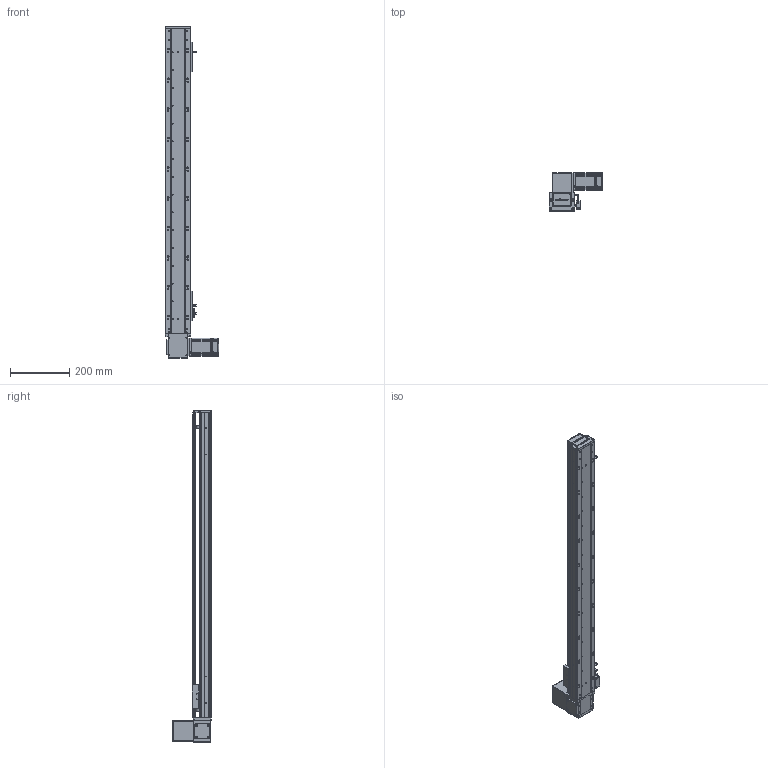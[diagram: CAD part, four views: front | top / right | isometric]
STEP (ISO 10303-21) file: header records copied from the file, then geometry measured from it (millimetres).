
FILE_DESCRIPTION (( 'STEP AP203' ), '1' );
FILE_NAME ('RY80-T-300-UR.SLDASM_850.step', '2021-03-01T02:26:28', ( '盈信电脑' ), ( '东莞市道滘镇水果街19号' ), 'SwSTEP 2.0', 'SolidWorks 2012', '' );
FILE_SCHEMA (( 'CONFIG_CONTROL_DESIGN' ));
Length unit declared in the file: millimetre
Products named in the file (20): RY80-T-M4蹟翐2; RY80-T萇儂假蚾啣; RY80-T-300-UR.SLDASM_850; RY80-T肮祭謫奻殏俋欶; RY80-T-上下折同步轮盖板; RY80-T翋肮祭謫裔啣; 1; RY80-T肮祭湍揤輸2; RY100-T粣創揤踡裔; RY80-T粣創揤踡輸; 滅袉蝶18-10; RY80-T-翋肮祭謫釱; RY80俋离覜茼え; 覜茼ん672; RY80-T肮祭湍揤輸1; 672嫖萇羲壽假蚾釱; RY80-T綴裔啣; RY80-T-300-UR倰第奻裔啣_850; RY80-T-300-UR倰第菁釱_850; RY80-T肮祭謫臏賑輸
Assembly tree (23 placements, depth 2):
  RY80-T-300-UR.SLDASM_850
    RY80-T-300-UR倰第菁釱_850
    RY80-T肮祭謫臏賑輸
    RY80-T-300-UR倰第奻裔啣_850
    RY80-T綴裔啣
    672嫖萇羲壽假蚾釱  x2
    覜茼ん672  x3
    RY80俋离覜茼え
    RY80-T-翋肮祭謫釱
    RY80-T肮祭湍揤輸1
    RY80-T肮祭湍揤輸2
    RY80-T粣創揤踡輸
    滅袉蝶18-10  x2
    RY100-T粣創揤踡裔
    RY80-T翋肮祭謫裔啣
    RY80-T-上下折同步轮盖板
    1
    RY80-T肮祭謫奻殏俋欶
    RY80-T-M4蹟翐2
    RY80-T萇儂假蚾啣
Bounding box: 180 x 130.5 x 1120 mm (x, y, z)
Volume: 1992113.1 mm3; surface area: 830019.4 mm2
Topology: 23 solids, 23 shells, 2590 faces, 7168 edges, 4658 vertices
Faces by surface type: plane 1361, cylinder 1029, cone 144, bspline 56
Entity records: 83924 total; most frequent: CARTESIAN_POINT 21054, ORIENTED_EDGE 12980, DIRECTION 12090, EDGE_CURVE 6490, VERTEX_POINT 4262, AXIS2_PLACEMENT_3D 4098, LINE 3894, VECTOR 3894
